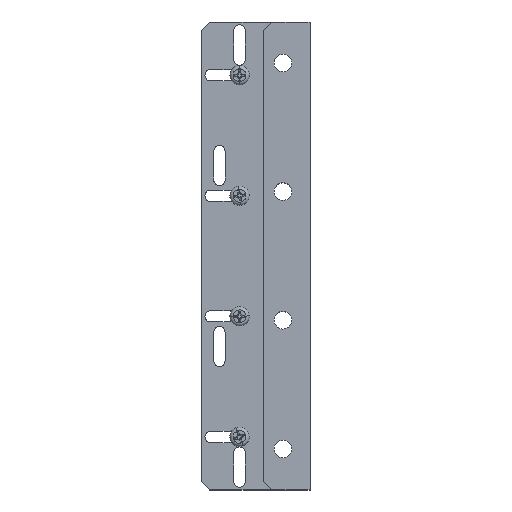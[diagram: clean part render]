
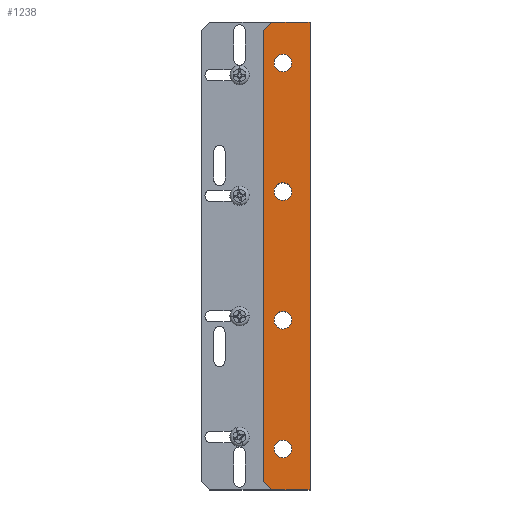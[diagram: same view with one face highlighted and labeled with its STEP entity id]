
A CAD part, top view. The second image highlights one B-rep face of the part: STEP entity #1238.
In plain terms, the highlighted planar face has unit normal (0, 0, 1).
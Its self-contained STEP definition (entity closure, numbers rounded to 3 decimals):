
#105 = AXIS2_PLACEMENT_3D ( 'NONE', #1629, #183, #426 ) ;
#134 = CARTESIAN_POINT ( 'NONE',  ( 0., 145.5, 17. ) ) ;
#162 = CARTESIAN_POINT ( 'NONE',  ( -7., -40., 17. ) ) ;
#174 = CARTESIAN_POINT ( 'NONE',  ( -1.5, 120., 17. ) ) ;
#183 = DIRECTION ( 'NONE',  ( 0., 0., -1. ) ) ;
#219 = LINE ( 'NONE', #506, #2676 ) ;
#266 = CARTESIAN_POINT ( 'NONE',  ( -1.5, -40., 17. ) ) ;
#344 = CARTESIAN_POINT ( 'NONE',  ( -1.5, 120., 17. ) ) ;
#386 = DIRECTION ( 'NONE',  ( -1., 0., 0. ) ) ;
#426 = DIRECTION ( 'NONE',  ( -1., 0., 0. ) ) ;
#451 = CIRCLE ( 'NONE', #3389, 5.5 ) ;
#482 = CARTESIAN_POINT ( 'NONE',  ( -8.5, 145.5, 17. ) ) ;
#489 = CARTESIAN_POINT ( 'NONE',  ( -1.5, -120., 17. ) ) ;
#506 = CARTESIAN_POINT ( 'NONE',  ( -13.5, 0., 17. ) ) ;
#509 = ORIENTED_EDGE ( 'NONE', *, *, #683, .T. ) ;
#513 = EDGE_CURVE ( 'NONE', #1881, #1373, #1418, .T. ) ;
#532 = VERTEX_POINT ( 'NONE', #3338 ) ;
#607 = ORIENTED_EDGE ( 'NONE', *, *, #1864, .T. ) ;
#624 = AXIS2_PLACEMENT_3D ( 'NONE', #3384, #2181, #3363 ) ;
#626 = ORIENTED_EDGE ( 'NONE', *, *, #3577, .T. ) ;
#673 = CARTESIAN_POINT ( 'NONE',  ( 15.5, -145.5, 17. ) ) ;
#683 = EDGE_CURVE ( 'NONE', #1576, #816, #3391, .T. ) ;
#687 = VERTEX_POINT ( 'NONE', #482 ) ;
#692 = CARTESIAN_POINT ( 'NONE',  ( -13.5, 140.5, 17. ) ) ;
#694 = VERTEX_POINT ( 'NONE', #692 ) ;
#718 = PLANE ( 'NONE',  #105 ) ;
#746 = EDGE_LOOP ( 'NONE', ( #2359, #2768 ) ) ;
#765 = VECTOR ( 'NONE', #3444, 1000. ) ;
#788 = DIRECTION ( 'NONE',  ( 0., 0., -1. ) ) ;
#805 = EDGE_CURVE ( 'NONE', #2409, #1576, #1236, .T. ) ;
#816 = VERTEX_POINT ( 'NONE', #956 ) ;
#822 = EDGE_LOOP ( 'NONE', ( #1597, #1889 ) ) ;
#849 = EDGE_CURVE ( 'NONE', #1373, #1881, #2120, .T. ) ;
#866 = DIRECTION ( 'NONE',  ( -1., 0., 0. ) ) ;
#884 = CIRCLE ( 'NONE', #1515, 5.5 ) ;
#948 = CIRCLE ( 'NONE', #3448, 5.5 ) ;
#954 = DIRECTION ( 'NONE',  ( 0., 0., -1. ) ) ;
#956 = CARTESIAN_POINT ( 'NONE',  ( 15.5, 145.5, 17. ) ) ;
#1031 = CARTESIAN_POINT ( 'NONE',  ( -7., 120., 17. ) ) ;
#1040 = CARTESIAN_POINT ( 'NONE',  ( 12.5, -145.5, 17. ) ) ;
#1067 = ORIENTED_EDGE ( 'NONE', *, *, #2816, .T. ) ;
#1082 = LINE ( 'NONE', #2598, #2207 ) ;
#1087 = FACE_BOUND ( 'NONE', #822, .T. ) ;
#1140 = CIRCLE ( 'NONE', #1942, 5.5 ) ;
#1161 = LINE ( 'NONE', #2080, #2004 ) ;
#1214 = DIRECTION ( 'NONE',  ( -1., 0., 0. ) ) ;
#1224 = DIRECTION ( 'NONE',  ( -1., 0., 0. ) ) ;
#1236 = LINE ( 'NONE', #1545, #1433 ) ;
#1237 = ORIENTED_EDGE ( 'NONE', *, *, #3230, .T. ) ;
#1238 = ADVANCED_FACE ( 'NONE', ( #1250, #2431, #1087, #2496, #3692 ), #718, .F. ) ;
#1250 = FACE_BOUND ( 'NONE', #746, .T. ) ;
#1270 = VERTEX_POINT ( 'NONE', #162 ) ;
#1373 = VERTEX_POINT ( 'NONE', #2956 ) ;
#1418 = CIRCLE ( 'NONE', #2976, 5.5 ) ;
#1433 = VECTOR ( 'NONE', #3006, 1000. ) ;
#1448 = EDGE_CURVE ( 'NONE', #694, #1917, #219, .T. ) ;
#1450 = CIRCLE ( 'NONE', #1941, 5.5 ) ;
#1511 = ORIENTED_EDGE ( 'NONE', *, *, #3746, .F. ) ;
#1515 = AXIS2_PLACEMENT_3D ( 'NONE', #2058, #2038, #866 ) ;
#1529 = CARTESIAN_POINT ( 'NONE',  ( -1.5, -120., 17. ) ) ;
#1541 = LINE ( 'NONE', #3597, #3272 ) ;
#1545 = CARTESIAN_POINT ( 'NONE',  ( 12.5, -145.5, 17. ) ) ;
#1576 = VERTEX_POINT ( 'NONE', #673 ) ;
#1588 = ORIENTED_EDGE ( 'NONE', *, *, #1448, .T. ) ;
#1597 = ORIENTED_EDGE ( 'NONE', *, *, #2843, .T. ) ;
#1612 = CARTESIAN_POINT ( 'NONE',  ( -7., 40., 17. ) ) ;
#1626 = VERTEX_POINT ( 'NONE', #3817 ) ;
#1629 = CARTESIAN_POINT ( 'NONE',  ( 0., 0., 17. ) ) ;
#1667 = ORIENTED_EDGE ( 'NONE', *, *, #3140, .T. ) ;
#1771 = DIRECTION ( 'NONE',  ( -1., 0., 0. ) ) ;
#1864 = EDGE_CURVE ( 'NONE', #3826, #687, #1541, .T. ) ;
#1881 = VERTEX_POINT ( 'NONE', #2470 ) ;
#1889 = ORIENTED_EDGE ( 'NONE', *, *, #2236, .T. ) ;
#1917 = VERTEX_POINT ( 'NONE', #3157 ) ;
#1941 = AXIS2_PLACEMENT_3D ( 'NONE', #266, #3288, #1771 ) ;
#1942 = AXIS2_PLACEMENT_3D ( 'NONE', #344, #3358, #386 ) ;
#1955 = DIRECTION ( 'NONE',  ( -1., 0., 0. ) ) ;
#1957 = DIRECTION ( 'NONE',  ( 0., 1., 0. ) ) ;
#1973 = VERTEX_POINT ( 'NONE', #1031 ) ;
#2004 = VECTOR ( 'NONE', #3868, 1000. ) ;
#2038 = DIRECTION ( 'NONE',  ( 0., 0., -1. ) ) ;
#2058 = CARTESIAN_POINT ( 'NONE',  ( -1.5, -40., 17. ) ) ;
#2080 = CARTESIAN_POINT ( 'NONE',  ( 0., -145.5, 17. ) ) ;
#2092 = CIRCLE ( 'NONE', #624, 5.5 ) ;
#2120 = CIRCLE ( 'NONE', #2362, 5.5 ) ;
#2178 = EDGE_LOOP ( 'NONE', ( #1067, #1667 ) ) ;
#2181 = DIRECTION ( 'NONE',  ( 0., 0., -1. ) ) ;
#2207 = VECTOR ( 'NONE', #2273, 1000. ) ;
#2236 = EDGE_CURVE ( 'NONE', #3402, #3471, #2092, .T. ) ;
#2273 = DIRECTION ( 'NONE',  ( 0.707, -0.707, 0. ) ) ;
#2359 = ORIENTED_EDGE ( 'NONE', *, *, #513, .T. ) ;
#2362 = AXIS2_PLACEMENT_3D ( 'NONE', #489, #2861, #3162 ) ;
#2409 = VERTEX_POINT ( 'NONE', #1040 ) ;
#2431 = FACE_BOUND ( 'NONE', #2178, .T. ) ;
#2470 = CARTESIAN_POINT ( 'NONE',  ( -7., -120., 17. ) ) ;
#2496 = FACE_BOUND ( 'NONE', #2500, .T. ) ;
#2500 = EDGE_LOOP ( 'NONE', ( #626, #3413 ) ) ;
#2504 = EDGE_LOOP ( 'NONE', ( #1237, #2949, #509, #1511, #607, #2799, #1588, #2719 ) ) ;
#2530 = CARTESIAN_POINT ( 'NONE',  ( 4., 40., 17. ) ) ;
#2544 = CARTESIAN_POINT ( 'NONE',  ( -77., 77., 17. ) ) ;
#2598 = CARTESIAN_POINT ( 'NONE',  ( -77., -77., 17. ) ) ;
#2676 = VECTOR ( 'NONE', #2933, 1000. ) ;
#2719 = ORIENTED_EDGE ( 'NONE', *, *, #3627, .T. ) ;
#2768 = ORIENTED_EDGE ( 'NONE', *, *, #849, .T. ) ;
#2799 = ORIENTED_EDGE ( 'NONE', *, *, #3653, .T. ) ;
#2816 = EDGE_CURVE ( 'NONE', #1270, #1626, #1450, .T. ) ;
#2843 = EDGE_CURVE ( 'NONE', #3471, #3402, #948, .T. ) ;
#2861 = DIRECTION ( 'NONE',  ( 0., 0., -1. ) ) ;
#2910 = LINE ( 'NONE', #2544, #765 ) ;
#2933 = DIRECTION ( 'NONE',  ( 0., -1., 0. ) ) ;
#2949 = ORIENTED_EDGE ( 'NONE', *, *, #805, .T. ) ;
#2955 = CARTESIAN_POINT ( 'NONE',  ( 4., 120., 17. ) ) ;
#2956 = CARTESIAN_POINT ( 'NONE',  ( 4., -120., 17. ) ) ;
#2957 = CARTESIAN_POINT ( 'NONE',  ( 12.5, 145.5, 17. ) ) ;
#2976 = AXIS2_PLACEMENT_3D ( 'NONE', #1529, #3299, #1214 ) ;
#3006 = DIRECTION ( 'NONE',  ( 1., 0., 0. ) ) ;
#3140 = EDGE_CURVE ( 'NONE', #1626, #1270, #884, .T. ) ;
#3157 = CARTESIAN_POINT ( 'NONE',  ( -13.5, -140.5, 17. ) ) ;
#3162 = DIRECTION ( 'NONE',  ( -1., 0., 0. ) ) ;
#3173 = VERTEX_POINT ( 'NONE', #2955 ) ;
#3179 = LINE ( 'NONE', #134, #3321 ) ;
#3230 = EDGE_CURVE ( 'NONE', #532, #2409, #1161, .T. ) ;
#3272 = VECTOR ( 'NONE', #3656, 1000. ) ;
#3288 = DIRECTION ( 'NONE',  ( 0., 0., -1. ) ) ;
#3299 = DIRECTION ( 'NONE',  ( 0., 0., -1. ) ) ;
#3321 = VECTOR ( 'NONE', #3649, 1000. ) ;
#3338 = CARTESIAN_POINT ( 'NONE',  ( -8.5, -145.5, 17. ) ) ;
#3358 = DIRECTION ( 'NONE',  ( 0., 0., -1. ) ) ;
#3363 = DIRECTION ( 'NONE',  ( -1., 0., 0. ) ) ;
#3384 = CARTESIAN_POINT ( 'NONE',  ( -1.5, 40., 17. ) ) ;
#3389 = AXIS2_PLACEMENT_3D ( 'NONE', #174, #788, #1955 ) ;
#3391 = LINE ( 'NONE', #3753, #3485 ) ;
#3402 = VERTEX_POINT ( 'NONE', #2530 ) ;
#3413 = ORIENTED_EDGE ( 'NONE', *, *, #3675, .T. ) ;
#3444 = DIRECTION ( 'NONE',  ( -0.707, -0.707, 0. ) ) ;
#3448 = AXIS2_PLACEMENT_3D ( 'NONE', #3570, #954, #1224 ) ;
#3471 = VERTEX_POINT ( 'NONE', #1612 ) ;
#3485 = VECTOR ( 'NONE', #1957, 1000. ) ;
#3570 = CARTESIAN_POINT ( 'NONE',  ( -1.5, 40., 17. ) ) ;
#3577 = EDGE_CURVE ( 'NONE', #1973, #3173, #451, .T. ) ;
#3597 = CARTESIAN_POINT ( 'NONE',  ( 0., 145.5, 17. ) ) ;
#3627 = EDGE_CURVE ( 'NONE', #1917, #532, #1082, .T. ) ;
#3649 = DIRECTION ( 'NONE',  ( 1., 0., 0. ) ) ;
#3653 = EDGE_CURVE ( 'NONE', #687, #694, #2910, .T. ) ;
#3656 = DIRECTION ( 'NONE',  ( -1., 0., 0. ) ) ;
#3675 = EDGE_CURVE ( 'NONE', #3173, #1973, #1140, .T. ) ;
#3692 = FACE_OUTER_BOUND ( 'NONE', #2504, .T. ) ;
#3746 = EDGE_CURVE ( 'NONE', #3826, #816, #3179, .T. ) ;
#3753 = CARTESIAN_POINT ( 'NONE',  ( 15.5, 0., 17. ) ) ;
#3817 = CARTESIAN_POINT ( 'NONE',  ( 4., -40., 17. ) ) ;
#3826 = VERTEX_POINT ( 'NONE', #2957 ) ;
#3868 = DIRECTION ( 'NONE',  ( 1., 0., 0. ) ) ;
